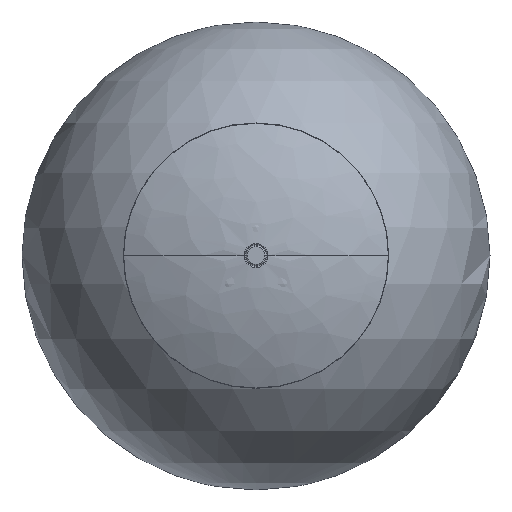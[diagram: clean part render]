
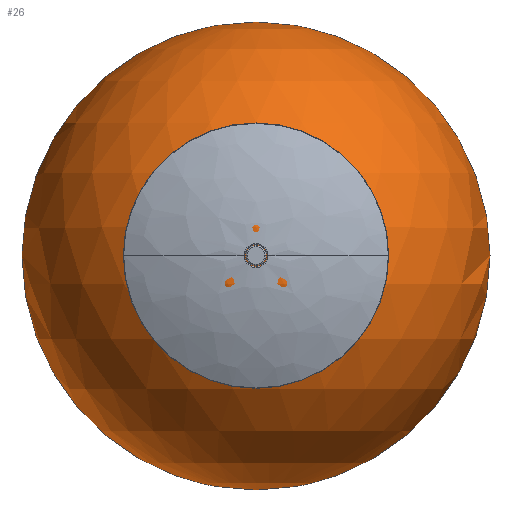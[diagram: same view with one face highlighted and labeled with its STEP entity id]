
A CAD part, top view. The second image highlights one B-rep face of the part: STEP entity #26.
In plain terms, the highlighted spherical face has radius 80 mm.
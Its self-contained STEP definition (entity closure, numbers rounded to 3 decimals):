
#1=CARTESIAN_POINT('',(0.,0.,0.));
#2=DIRECTION('',(0.,0.,1.));
#3=DIRECTION('',(0.,1.,0.));
#4=AXIS2_PLACEMENT_3D('',#1,#2,#3);
#6=CARTESIAN_POINT('',(0.,0.,0.));
#7=DIRECTION('',(0.,0.,-1.));
#8=DIRECTION('',(0.,1.,0.));
#9=AXIS2_PLACEMENT_3D('',#6,#7,#8);
#11=CARTESIAN_POINT('',(0.,80.,0.));
#12=CARTESIAN_POINT('',(0.,-80.,0.));
#13=VERTEX_POINT('',#11);
#14=VERTEX_POINT('',#12);
#15=CARTESIAN_POINT('',(0.,0.,0.));
#16=DIRECTION('',(0.,1.,0.));
#17=DIRECTION('',(1.,0.,0.));
#18=AXIS2_PLACEMENT_3D('',#15,#16,#17);
#19=SPHERICAL_SURFACE('',#18,80.);
#21=ORIENTED_EDGE('',*,*,#20,.F.);
#23=ORIENTED_EDGE('',*,*,#22,.T.);
#24=EDGE_LOOP('',(#21,#23));
#25=FACE_OUTER_BOUND('',#24,.F.);
#26=ADVANCED_FACE('',(#25),#19,.T.);
#5=CIRCLE('',#4,80.);
#10=CIRCLE('',#9,80.);
#20=EDGE_CURVE('',#13,#14,#5,.T.);
#22=EDGE_CURVE('',#13,#14,#10,.T.);
